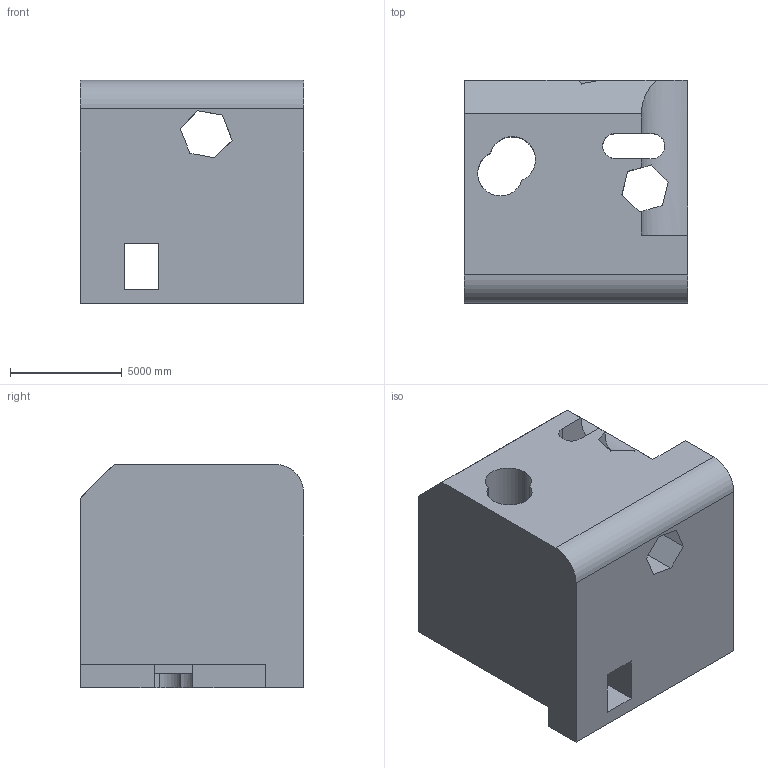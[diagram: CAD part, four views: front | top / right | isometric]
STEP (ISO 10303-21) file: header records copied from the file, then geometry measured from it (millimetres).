
FILE_DESCRIPTION (( 'STEP AP203' ), '1' );
FILE_NAME ('1967.STEP', '2022-08-23T10:04:21', ( 'user' ), ( '' ), 'SwSTEP 2.0', 'SolidWorks 2021', '' );
FILE_SCHEMA (( 'CONFIG_CONTROL_DESIGN' ));
Length unit declared in the file: centimetre
Products named in the file (1): 1967
Bounding box: 10000 x 10000 x 10000 mm (x, y, z)
Volume: 790131600524.3 mm3; surface area: 859881951.8 mm2
Topology: 1 solids, 1 shells, 43 faces, 147 edges, 98 vertices
Faces by surface type: plane 32, cylinder 11
Entity records: 1810 total; most frequent: CARTESIAN_POINT 438, ORIENTED_EDGE 294, DIRECTION 250, EDGE_CURVE 147, LINE 110, VECTOR 110, VERTEX_POINT 98, AXIS2_PLACEMENT_3D 70
